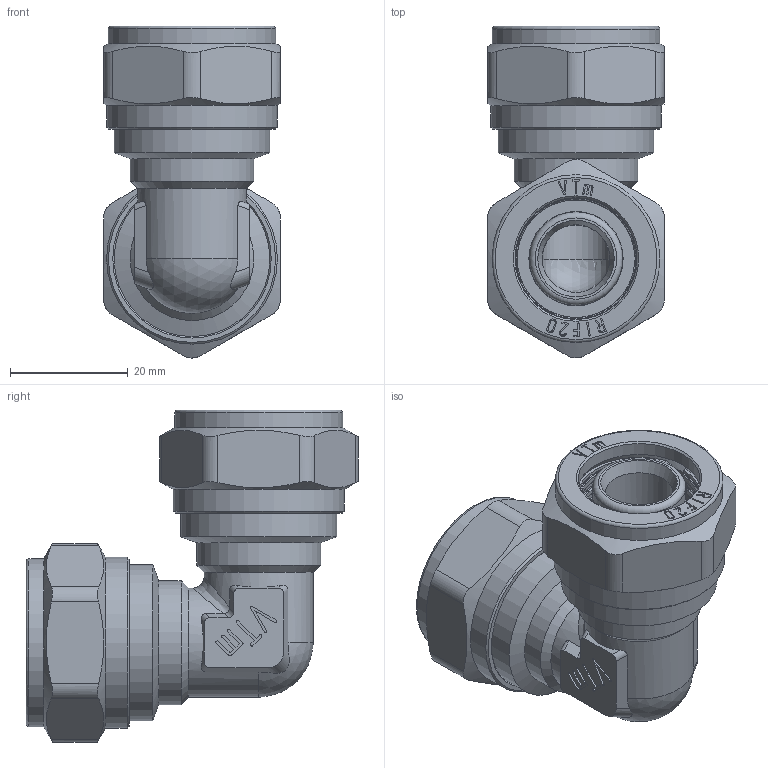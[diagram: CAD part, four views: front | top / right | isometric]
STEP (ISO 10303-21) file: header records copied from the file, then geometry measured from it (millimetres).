
FILE_DESCRIPTION(('STEP AP203'), '1');
FILE_NAME('VTm.351.N.002020', '', ('UNSPECIFIED'), ('UNSPECIFIED'), 'C3D Converter', 'C3D Toolkit', '');
FILE_SCHEMA(('CONFIG_CONTROL_DESIGN'));
Length unit declared in the file: millimetre
Products named in the file (1): ВР.302635.096.000 СБ
Bounding box: 30 x 56.38 x 56.38 mm (x, y, z)
Volume: 26552.9 mm3; surface area: 18577.2 mm2
Topology: 1 solids, 1 shells, 719 faces, 1979 edges, 1306 vertices
Faces by surface type: extrusion 312, plane 252, cylinder 74, torus 54, cone 24, sphere 2, bspline 1
Full cylindrical faces by diameter (mm): 11.5 x2, 15.8 x8, 15.9 x2, 18.5 x2, 20.1 x2, 20.2 x2, 20.7 x2, 21 x2, 24.118 x2, 26.441 x2, 28.5 x2, 29 x2
Entity records: 25947 total; most frequent: CARTESIAN_POINT 9416, ORIENTED_EDGE 3802, DIRECTION 2400, EDGE_CURVE 1901, VERTEX_POINT 1306, VECTOR 1188, B_SPLINE_CURVE_WITH_KNOTS 1078, LINE 876
